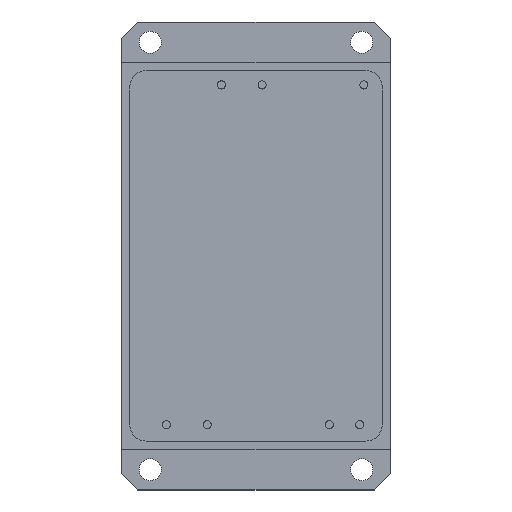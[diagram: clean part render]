
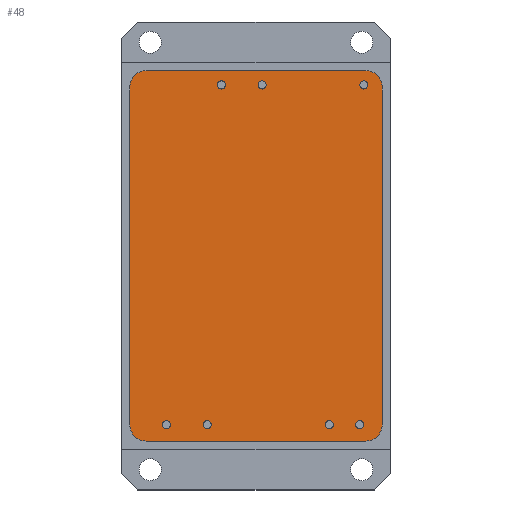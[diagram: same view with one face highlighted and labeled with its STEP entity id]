
A CAD part, top view. The second image highlights one B-rep face of the part: STEP entity #48.
In plain terms, the highlighted planar face has unit normal (0, 0, 1).
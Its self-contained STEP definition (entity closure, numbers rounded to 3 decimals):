
#48=ADVANCED_FACE('',(#89,#91,#93,#95,#97,#99,#101,#103),#105,.T.);
#89=FACE_BOUND('',#90,.T.);
#90=EDGE_LOOP('',(#430,#431,#432,#433,#434,#435,#436,#437));
#91=FACE_BOUND('',#92,.T.);
#92=EDGE_LOOP('',(#438));
#93=FACE_BOUND('',#94,.T.);
#94=EDGE_LOOP('',(#439));
#95=FACE_BOUND('',#96,.T.);
#96=EDGE_LOOP('',(#440));
#97=FACE_BOUND('',#98,.T.);
#98=EDGE_LOOP('',(#441));
#99=FACE_BOUND('',#100,.T.);
#100=EDGE_LOOP('',(#442));
#101=FACE_BOUND('',#102,.T.);
#102=EDGE_LOOP('',(#443));
#103=FACE_BOUND('',#104,.T.);
#104=EDGE_LOOP('',(#444));
#105=PLANE('',#106);
#106=AXIS2_PLACEMENT_3D('',#107,#108,#109);
#107=CARTESIAN_POINT('',(0.,0.,10.05));
#108=DIRECTION('',(0.,0.,1.));
#109=DIRECTION('',(0.,1.,0.));
#430=ORIENTED_EDGE('',*,*,#594,.T.);
#431=ORIENTED_EDGE('',*,*,#595,.T.);
#432=ORIENTED_EDGE('',*,*,#596,.T.);
#433=ORIENTED_EDGE('',*,*,#597,.T.);
#434=ORIENTED_EDGE('',*,*,#598,.T.);
#435=ORIENTED_EDGE('',*,*,#599,.T.);
#436=ORIENTED_EDGE('',*,*,#600,.T.);
#437=ORIENTED_EDGE('',*,*,#601,.T.);
#438=ORIENTED_EDGE('',*,*,#602,.F.);
#439=ORIENTED_EDGE('',*,*,#603,.F.);
#440=ORIENTED_EDGE('',*,*,#604,.F.);
#441=ORIENTED_EDGE('',*,*,#605,.F.);
#442=ORIENTED_EDGE('',*,*,#606,.F.);
#443=ORIENTED_EDGE('',*,*,#607,.F.);
#444=ORIENTED_EDGE('',*,*,#608,.F.);
#594=EDGE_CURVE('',#676,#677,#678,.T.);
#595=EDGE_CURVE('',#677,#679,#680,.T.);
#596=EDGE_CURVE('',#679,#681,#682,.T.);
#597=EDGE_CURVE('',#681,#683,#684,.T.);
#598=EDGE_CURVE('',#683,#685,#686,.T.);
#599=EDGE_CURVE('',#685,#687,#688,.T.);
#600=EDGE_CURVE('',#687,#689,#690,.T.);
#601=EDGE_CURVE('',#689,#676,#691,.T.);
#602=EDGE_CURVE('',#692,#692,#693,.T.);
#603=EDGE_CURVE('',#694,#694,#695,.T.);
#604=EDGE_CURVE('',#696,#696,#697,.T.);
#605=EDGE_CURVE('',#698,#698,#699,.T.);
#606=EDGE_CURVE('',#700,#700,#701,.T.);
#607=EDGE_CURVE('',#702,#702,#703,.T.);
#608=EDGE_CURVE('',#704,#704,#705,.T.);
#676=VERTEX_POINT('',#820);
#677=VERTEX_POINT('',#821);
#678=LINE('',#822,#823);
#679=VERTEX_POINT('',#825);
#680=CIRCLE('',#826,2.);
#681=VERTEX_POINT('',#830);
#682=LINE('',#831,#832);
#683=VERTEX_POINT('',#834);
#684=CIRCLE('',#835,2.);
#685=VERTEX_POINT('',#839);
#686=LINE('',#840,#841);
#687=VERTEX_POINT('',#843);
#688=CIRCLE('',#844,2.);
#689=VERTEX_POINT('',#848);
#690=LINE('',#849,#850);
#691=CIRCLE('',#852,2.);
#692=VERTEX_POINT('',#856);
#693=CIRCLE('',#857,0.5);
#694=VERTEX_POINT('',#861);
#695=CIRCLE('',#862,0.5);
#696=VERTEX_POINT('',#866);
#697=CIRCLE('',#867,0.5);
#698=VERTEX_POINT('',#871);
#699=CIRCLE('',#872,0.5);
#700=VERTEX_POINT('',#876);
#701=CIRCLE('',#877,0.5);
#702=VERTEX_POINT('',#881);
#703=CIRCLE('',#882,0.5);
#704=VERTEX_POINT('',#886);
#705=CIRCLE('',#887,0.5);
#820=CARTESIAN_POINT('',(-15.5,20.75,10.05));
#821=CARTESIAN_POINT('',(-15.5,-20.75,10.05));
#822=CARTESIAN_POINT('',(-15.5,20.75,10.05));
#823=VECTOR('',#824,1.);
#824=DIRECTION('',(0.,-1.,0.));
#825=CARTESIAN_POINT('',(-13.5,-22.75,10.05));
#826=AXIS2_PLACEMENT_3D('',#827,#828,#829);
#827=CARTESIAN_POINT('',(-13.5,-20.75,10.05));
#828=DIRECTION('',(0.,0.,1.));
#829=DIRECTION('',(-1.,0.,0.));
#830=CARTESIAN_POINT('',(13.5,-22.75,10.05));
#831=CARTESIAN_POINT('',(-13.5,-22.75,10.05));
#832=VECTOR('',#833,1.);
#833=DIRECTION('',(1.,0.,0.));
#834=CARTESIAN_POINT('',(15.5,-20.75,10.05));
#835=AXIS2_PLACEMENT_3D('',#836,#837,#838);
#836=CARTESIAN_POINT('',(13.5,-20.75,10.05));
#837=DIRECTION('',(0.,0.,1.));
#838=DIRECTION('',(0.,-1.,0.));
#839=CARTESIAN_POINT('',(15.5,20.75,10.05));
#840=CARTESIAN_POINT('',(15.5,-20.75,10.05));
#841=VECTOR('',#842,1.);
#842=DIRECTION('',(0.,1.,0.));
#843=CARTESIAN_POINT('',(13.5,22.75,10.05));
#844=AXIS2_PLACEMENT_3D('',#845,#846,#847);
#845=CARTESIAN_POINT('',(13.5,20.75,10.05));
#846=DIRECTION('',(0.,0.,1.));
#847=DIRECTION('',(1.,0.,0.));
#848=CARTESIAN_POINT('',(-13.5,22.75,10.05));
#849=CARTESIAN_POINT('',(13.5,22.75,10.05));
#850=VECTOR('',#851,1.);
#851=DIRECTION('',(-1.,0.,0.));
#852=AXIS2_PLACEMENT_3D('',#853,#854,#855);
#853=CARTESIAN_POINT('',(-13.5,20.75,10.05));
#854=DIRECTION('',(0.,0.,1.));
#855=DIRECTION('',(0.,1.,0.));
#856=CARTESIAN_POINT('',(9.,-20.25,10.05));
#857=AXIS2_PLACEMENT_3D('',#858,#859,#860);
#858=CARTESIAN_POINT('',(9.,-20.75,10.05));
#859=DIRECTION('',(0.,0.,1.));
#860=DIRECTION('',(0.,1.,0.));
#861=CARTESIAN_POINT('',(-6.,-20.25,10.05));
#862=AXIS2_PLACEMENT_3D('',#863,#864,#865);
#863=CARTESIAN_POINT('',(-6.,-20.75,10.05));
#864=DIRECTION('',(0.,0.,1.));
#865=DIRECTION('',(0.,1.,0.));
#866=CARTESIAN_POINT('',(-11.,-20.25,10.05));
#867=AXIS2_PLACEMENT_3D('',#868,#869,#870);
#868=CARTESIAN_POINT('',(-11.,-20.75,10.05));
#869=DIRECTION('',(0.,0.,1.));
#870=DIRECTION('',(0.,1.,0.));
#871=CARTESIAN_POINT('',(13.25,21.5,10.05));
#872=AXIS2_PLACEMENT_3D('',#873,#874,#875);
#873=CARTESIAN_POINT('',(13.25,21.,10.05));
#874=DIRECTION('',(0.,0.,1.));
#875=DIRECTION('',(0.,1.,0.));
#876=CARTESIAN_POINT('',(0.75,21.5,10.05));
#877=AXIS2_PLACEMENT_3D('',#878,#879,#880);
#878=CARTESIAN_POINT('',(0.75,21.,10.05));
#879=DIRECTION('',(0.,0.,1.));
#880=DIRECTION('',(0.,1.,0.));
#881=CARTESIAN_POINT('',(-4.25,21.5,10.05));
#882=AXIS2_PLACEMENT_3D('',#883,#884,#885);
#883=CARTESIAN_POINT('',(-4.25,21.,10.05));
#884=DIRECTION('',(0.,0.,1.));
#885=DIRECTION('',(0.,1.,0.));
#886=CARTESIAN_POINT('',(12.75,-20.25,10.05));
#887=AXIS2_PLACEMENT_3D('',#888,#889,#890);
#888=CARTESIAN_POINT('',(12.75,-20.75,10.05));
#889=DIRECTION('',(0.,0.,1.));
#890=DIRECTION('',(0.,1.,0.));
